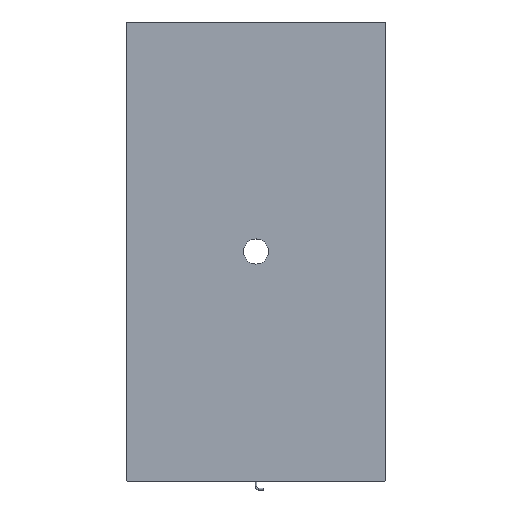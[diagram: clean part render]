
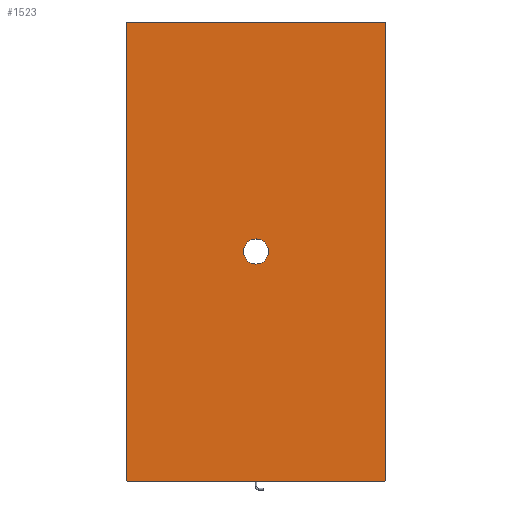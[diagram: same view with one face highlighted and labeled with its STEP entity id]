
A CAD part, top view. The second image highlights one B-rep face of the part: STEP entity #1523.
In plain terms, the highlighted planar face has unit normal (0, 0, 1).
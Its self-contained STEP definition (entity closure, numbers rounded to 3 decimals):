
#13 = CARTESIAN_POINT ( 'NONE',  ( 257., -456.5, 41. ) ) ;
#30 = DIRECTION ( 'NONE',  ( -0.707, 0.707, 0. ) ) ;
#38 = CIRCLE ( 'NONE', #2213, 25. ) ;
#66 = ORIENTED_EDGE ( 'NONE', *, *, #688, .T. ) ;
#72 = LINE ( 'NONE', #1035, #2187 ) ;
#75 = FACE_OUTER_BOUND ( 'NONE', #1293, .T. ) ;
#83 = DIRECTION ( 'NONE',  ( 0., -1., 0. ) ) ;
#90 = CARTESIAN_POINT ( 'NONE',  ( -257., -457., 41. ) ) ;
#112 = EDGE_LOOP ( 'NONE', ( #1004, #1909 ) ) ;
#115 = VERTEX_POINT ( 'NONE', #471 ) ;
#118 = DIRECTION ( 'NONE',  ( -1., 0., 0. ) ) ;
#144 = CARTESIAN_POINT ( 'NONE',  ( 0., 0., 41. ) ) ;
#148 = ORIENTED_EDGE ( 'NONE', *, *, #1786, .T. ) ;
#170 = DIRECTION ( 'NONE',  ( 0.707, -0.707, 0. ) ) ;
#176 = EDGE_CURVE ( 'NONE', #1481, #994, #1368, .T. ) ;
#207 = DIRECTION ( 'NONE',  ( -1., 0., 0. ) ) ;
#279 = EDGE_CURVE ( 'NONE', #929, #1805, #470, .T. ) ;
#280 = VERTEX_POINT ( 'NONE', #1751 ) ;
#294 = EDGE_CURVE ( 'NONE', #280, #835, #1203, .T. ) ;
#346 = CARTESIAN_POINT ( 'NONE',  ( 257., -456.5, 41. ) ) ;
#380 = CARTESIAN_POINT ( 'NONE',  ( 257., 456.5, 41. ) ) ;
#382 = DIRECTION ( 'NONE',  ( 0., 1., 0. ) ) ;
#396 = EDGE_CURVE ( 'NONE', #1538, #929, #1366, .T. ) ;
#397 = DIRECTION ( 'NONE',  ( 1., 0., 0. ) ) ;
#461 = EDGE_CURVE ( 'NONE', #627, #1538, #72, .T. ) ;
#466 = CARTESIAN_POINT ( 'NONE',  ( 256.5, 457., 41. ) ) ;
#470 = LINE ( 'NONE', #1759, #2026 ) ;
#471 = CARTESIAN_POINT ( 'NONE',  ( 256.5, -457., 41. ) ) ;
#546 = ORIENTED_EDGE ( 'NONE', *, *, #651, .T. ) ;
#580 = CARTESIAN_POINT ( 'NONE',  ( 25., 0., 41. ) ) ;
#627 = VERTEX_POINT ( 'NONE', #380 ) ;
#651 = EDGE_CURVE ( 'NONE', #1805, #280, #710, .T. ) ;
#680 = ORIENTED_EDGE ( 'NONE', *, *, #1708, .T. ) ;
#688 = EDGE_CURVE ( 'NONE', #835, #115, #2067, .T. ) ;
#696 = FACE_BOUND ( 'NONE', #112, .T. ) ;
#710 = LINE ( 'NONE', #1094, #1641 ) ;
#740 = AXIS2_PLACEMENT_3D ( 'NONE', #1717, #1324, #1161 ) ;
#835 = VERTEX_POINT ( 'NONE', #1633 ) ;
#865 = DIRECTION ( 'NONE',  ( 0.707, 0.707, 0. ) ) ;
#929 = VERTEX_POINT ( 'NONE', #1301 ) ;
#930 = AXIS2_PLACEMENT_3D ( 'NONE', #1850, #943, #118 ) ;
#943 = DIRECTION ( 'NONE',  ( 0., 0., -1. ) ) ;
#958 = EDGE_CURVE ( 'NONE', #994, #1481, #38, .T. ) ;
#994 = VERTEX_POINT ( 'NONE', #1541 ) ;
#1004 = ORIENTED_EDGE ( 'NONE', *, *, #958, .F. ) ;
#1013 = DIRECTION ( 'NONE',  ( -0.707, -0.707, 0. ) ) ;
#1035 = CARTESIAN_POINT ( 'NONE',  ( 256.5, 457., 41. ) ) ;
#1078 = ORIENTED_EDGE ( 'NONE', *, *, #279, .T. ) ;
#1094 = CARTESIAN_POINT ( 'NONE',  ( -257., -457., 41. ) ) ;
#1161 = DIRECTION ( 'NONE',  ( 1., 0., 0. ) ) ;
#1185 = VECTOR ( 'NONE', #382, 1000. ) ;
#1203 = LINE ( 'NONE', #1364, #1231 ) ;
#1223 = CARTESIAN_POINT ( 'NONE',  ( -257., 456.5, 41. ) ) ;
#1231 = VECTOR ( 'NONE', #170, 1000. ) ;
#1257 = LINE ( 'NONE', #346, #2093 ) ;
#1276 = PLANE ( 'NONE',  #930 ) ;
#1293 = EDGE_LOOP ( 'NONE', ( #546, #1310, #66, #680, #148, #1356, #1452, #1078 ) ) ;
#1301 = CARTESIAN_POINT ( 'NONE',  ( -256.5, 457., 41. ) ) ;
#1310 = ORIENTED_EDGE ( 'NONE', *, *, #294, .T. ) ;
#1324 = DIRECTION ( 'NONE',  ( 0., 0., 1. ) ) ;
#1356 = ORIENTED_EDGE ( 'NONE', *, *, #461, .T. ) ;
#1364 = CARTESIAN_POINT ( 'NONE',  ( -256.5, -457., 41. ) ) ;
#1366 = LINE ( 'NONE', #2105, #2219 ) ;
#1368 = CIRCLE ( 'NONE', #740, 25. ) ;
#1452 = ORIENTED_EDGE ( 'NONE', *, *, #396, .T. ) ;
#1481 = VERTEX_POINT ( 'NONE', #580 ) ;
#1523 = ADVANCED_FACE ( 'NONE', ( #75, #696 ), #1276, .F. ) ;
#1538 = VERTEX_POINT ( 'NONE', #466 ) ;
#1541 = CARTESIAN_POINT ( 'NONE',  ( -25., 0., 41. ) ) ;
#1545 = LINE ( 'NONE', #1573, #1185 ) ;
#1573 = CARTESIAN_POINT ( 'NONE',  ( 257., -457., 41. ) ) ;
#1583 = VECTOR ( 'NONE', #397, 1000. ) ;
#1607 = VERTEX_POINT ( 'NONE', #13 ) ;
#1633 = CARTESIAN_POINT ( 'NONE',  ( -256.5, -457., 41. ) ) ;
#1641 = VECTOR ( 'NONE', #83, 1000. ) ;
#1702 = DIRECTION ( 'NONE',  ( 0., 0., 1. ) ) ;
#1708 = EDGE_CURVE ( 'NONE', #115, #1607, #1257, .T. ) ;
#1709 = DIRECTION ( 'NONE',  ( 1., 0., 0. ) ) ;
#1717 = CARTESIAN_POINT ( 'NONE',  ( 0., 0., 41. ) ) ;
#1751 = CARTESIAN_POINT ( 'NONE',  ( -257., -456.5, 41. ) ) ;
#1759 = CARTESIAN_POINT ( 'NONE',  ( -257., 456.5, 41. ) ) ;
#1786 = EDGE_CURVE ( 'NONE', #1607, #627, #1545, .T. ) ;
#1805 = VERTEX_POINT ( 'NONE', #1223 ) ;
#1850 = CARTESIAN_POINT ( 'NONE',  ( 0., 0., 41. ) ) ;
#1909 = ORIENTED_EDGE ( 'NONE', *, *, #176, .F. ) ;
#2026 = VECTOR ( 'NONE', #1013, 1000. ) ;
#2067 = LINE ( 'NONE', #90, #1583 ) ;
#2093 = VECTOR ( 'NONE', #865, 1000. ) ;
#2105 = CARTESIAN_POINT ( 'NONE',  ( -257., 457., 41. ) ) ;
#2187 = VECTOR ( 'NONE', #30, 1000. ) ;
#2213 = AXIS2_PLACEMENT_3D ( 'NONE', #144, #1702, #1709 ) ;
#2219 = VECTOR ( 'NONE', #207, 1000. ) ;
